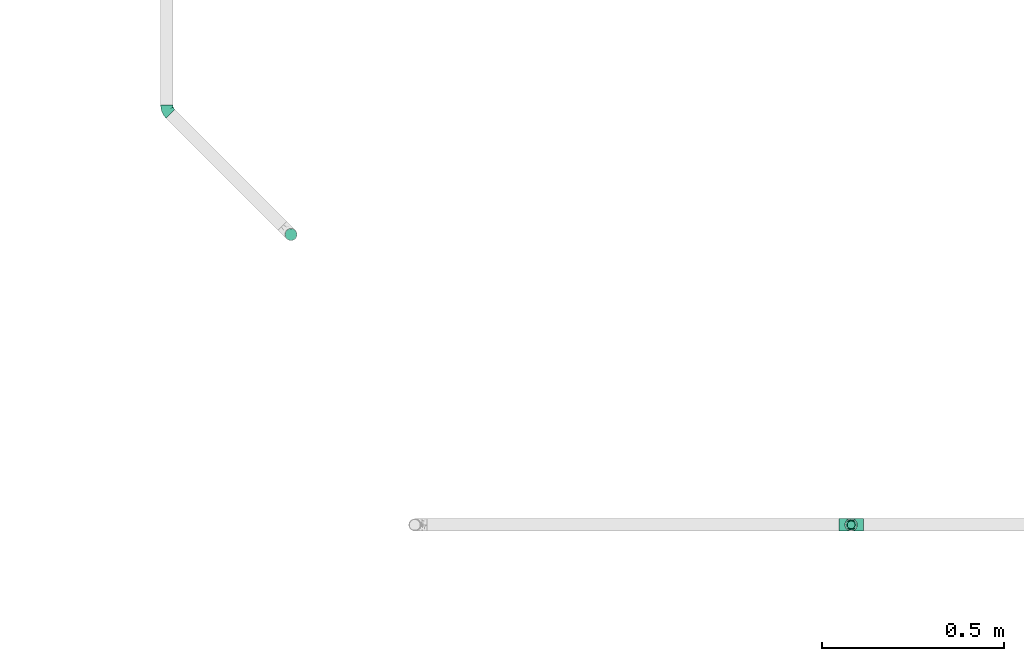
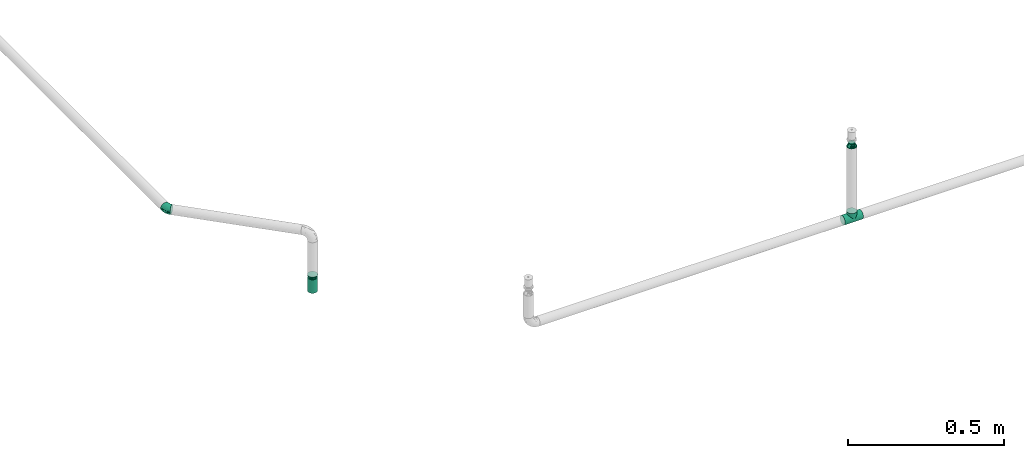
# One storey, part 29 of 157: 4 flow fittings, 1 flow terminal.
"""IFC2X3 building model written with IfcOpenShell, lengths in millimetres."""

from ifc_helpers import new_model, entity, si_unit, converted_unit, derived_unit, direction, frame, origin_with_axes, place, context, subcontext, project, spatial, open_shell, surface_model, source, transform, mapped, type_object, element, save


model = new_model("IFC2X3")

# Units and contexts
model_context = context("Model", 3, precision=0.01, world=frame((0.0, 4.29681676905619e-09, 0.0)), true_north=direction((4.01073788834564e-13, 1.0)))
plan_context = context("Plan", 3, precision=0.01, world=frame((0.0, 4.29681676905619e-09, 0.0)), true_north=direction((4.01073788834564e-13, 1.0)))
body_context = subcontext(model_context, "Body", "Model", "MODEL_VIEW")
ifc_project = project(units=[converted_unit("PLANEANGLEUNIT", "DEGREE", entity("IfcPositiveLengthMeasure", 0.0174532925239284), si_unit("PLANEANGLEUNIT", "RADIAN"), dimensions=[0, 0, 0, 0, 0, 0, 0]), si_unit("AREAUNIT", "SQUARE_METRE"), si_unit("LENGTHUNIT", "METRE", prefix="MILLI"), si_unit("MASSUNIT", "GRAM", prefix="KILO"), si_unit("POWERUNIT", "WATT"), si_unit("PRESSUREUNIT", "PASCAL"), si_unit("FORCEUNIT", "NEWTON", prefix="KILO"), si_unit("ELECTRICCURRENTUNIT", "AMPERE"), si_unit("THERMODYNAMICTEMPERATUREUNIT", "DEGREE_CELSIUS"), si_unit("TIMEUNIT", "SECOND"), si_unit("VOLUMEUNIT", "CUBIC_METRE"), derived_unit("LINEARVELOCITYUNIT", [(si_unit("LENGTHUNIT", "METRE"), 1), (si_unit("TIMEUNIT", "SECOND"), -1)]), derived_unit("VOLUMETRICFLOWRATEUNIT", [(si_unit("VOLUMEUNIT", "CUBIC_METRE"), 1), (si_unit("TIMEUNIT", "SECOND"), -1)]), derived_unit("THERMALTRANSMITTANCEUNIT", [(si_unit("POWERUNIT", "WATT"), 1), (si_unit("THERMODYNAMICTEMPERATUREUNIT", "KELVIN"), -1), (si_unit("AREAUNIT", "SQUARE_METRE"), -1)])], contexts=[model_context, plan_context])

# Site, building, storey
site_placement = place(None, frame((0.0, -4.29681676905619e-09, 0.0), z_axis=(0.0, 0.0, 1.0), x_axis=(1.0, 0.0, 0.0)))
site = spatial("IfcSite", under=ifc_project, at=site_placement, CompositionType="ELEMENT")
building_placement = place(site_placement, frame((0.0, 4.29681676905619e-09, 0.0), z_axis=(0.0, 0.0, 1.0), x_axis=(1.0, 0.0, 0.0)))
building = spatial("IfcBuilding", under=site, at=building_placement, Name="mc-building", CompositionType="ELEMENT")
storey_placement = place(building_placement, frame((0.0, 0.0, 204000.0), z_axis=(0.0, 0.0, 1.0), x_axis=(1.0, 0.0, 0.0)))
storey = spatial("IfcBuildingStorey", under=building, at=storey_placement, Name="Nivå D", CompositionType="ELEMENT", Elevation=204000.0)

# Flow fittings
pipe_fitting_type_1 = type_object("IfcPipeFittingType", Name="magi_pipe_fe_tee_centric_90_NOR", PredefinedType="JUNCTION")
shared_shape_1 = source(origin_with_axes(), body_context, "Body", "SurfaceModel", [
    surface_model("IfcShellBasedSurfaceModel", [(-33.8, 4.37404, -16.32415), (-33.8, 0.0, -16.9), (-33.8, 16.32415, -4.37404), (-33.8, 8.45, -14.63583), (-33.8, 11.9501, -11.9501), (-33.8, 14.63583, -8.45), (-33.8, -16.9, 0.0), (-33.8, -11.9501, -11.9501), (-33.8, -14.63583, -8.45), (-33.8, -8.45, -14.63583), (-33.8, -4.37404, -16.32415), (-33.8, -16.32415, -4.37404), (-33.8, 14.63583, 8.45), (-33.8, 16.32415, 4.37404), (-33.8, -8.45, 14.63583), (-33.8, 8.45, 14.63583), (-33.8, 11.9501, 11.9501), (-33.8, 4.37404, 16.32415), (-33.8, 0.0, 16.9), (-33.8, -11.9501, 11.9501), (-33.8, -14.63583, 8.45), (-33.8, -16.32415, 4.37404), (-33.8, -4.37404, 16.32415), (-33.8, 16.9, 0.0), (33.8, 4.37404, -16.32415), (33.8, -16.9, 0.0), (33.8, 0.0, -16.9), (33.8, 14.63583, -8.45), (33.8, 8.45, -14.63583), (33.8, 16.32415, -4.37404), (33.8, 11.9501, -11.9501), (33.8, -16.32415, 4.37404), (33.8, -8.45, -14.63583), (33.8, -4.37404, -16.32415), (33.8, -11.9501, -11.9501), (33.8, -14.63583, -8.45), (33.8, -16.32415, -4.37404), (33.8, 16.32415, 4.37404), (33.8, 8.45, 14.63583), (33.8, 14.63583, 8.45), (33.8, 11.9501, 11.9501), (33.8, -8.45, 14.63583), (33.8, 4.37404, 16.32415), (33.8, -14.63583, 8.45), (33.8, -11.9501, 11.9501), (33.8, 0.0, 16.9), (33.8, -4.37404, 16.32415), (33.8, 16.9, 0.0), (16.28698, -16.28698, 4.51047), (16.9, -16.9, 0.0), (14.62704, -14.62704, 8.4652), (9.47213, -9.47213, 13.99602), (12.26343, -12.26343, 11.62834), (-16.9, -16.9, 0.0), (-16.28698, -16.28698, 4.51047), (-14.62704, -14.62704, 8.4652), (-12.26343, -12.26343, 11.62834), (-9.47213, -9.47213, 13.99602), (-6.42894, -6.42894, 15.62942), (6.42894, -6.42894, 15.62942), (3.24522, -3.24522, 16.58549), (0.0, 0.0, 16.9), (-3.24522, -3.24522, 16.58549), (3.24522, -3.24522, -16.58549), (0.0, 0.0, -16.9), (-3.24522, -3.24522, -16.58549), (-6.42894, -6.42894, -15.62942), (6.42894, -6.42894, -15.62942), (9.47213, -9.47213, -13.99602), (12.26343, -12.26343, -11.62834), (14.62704, -14.62704, -8.4652), (16.28698, -16.28698, -4.51047), (-9.47213, -9.47213, -13.99602), (-12.26343, -12.26343, -11.62834), (-16.28698, -16.28698, -4.51047), (-14.62704, -14.62704, -8.4652), (4.37404, -25.35, -16.32415), (-16.9, -25.35, 0.0), (0.0, -25.35, -16.9), (14.63583, -25.35, -8.45), (8.45, -25.35, -14.63583), (16.32415, -25.35, -4.37404), (11.9501, -25.35, -11.9501), (-11.9501, -25.35, -11.9501), (-8.45, -25.35, -14.63583), (-4.37404, -25.35, -16.32415), (-14.63583, -25.35, -8.45), (-16.32415, -25.35, -4.37404), (16.9, -25.35, 0.0), (8.45, -25.35, 14.63583), (16.32415, -25.35, 4.37404), (14.63583, -25.35, 8.45), (-8.45, -25.35, 14.63583), (11.9501, -25.35, 11.9501), (4.37404, -25.35, 16.32415), (-16.32415, -25.35, 4.37404), (-11.9501, -25.35, 11.9501), (-14.63583, -25.35, 8.45), (0.0, -25.35, 16.9), (-4.37404, -25.35, 16.32415)], [open_shell([[[0, 1, 2]], [[3, 0, 4]], [[0, 2, 5]], [[4, 0, 5]], [[6, 2, 1]], [[7, 8, 9]], [[1, 10, 9]], [[11, 6, 8]], [[1, 9, 8]], [[1, 8, 6]], [[6, 12, 2]], [[12, 13, 2]], [[14, 12, 6]], [[12, 14, 15]], [[16, 12, 15]], [[17, 15, 18]], [[19, 14, 20]], [[21, 20, 14]], [[22, 18, 14]], [[14, 6, 21]], [[14, 18, 15]], [[23, 2, 13]], [[24, 25, 26]], [[27, 24, 28]], [[27, 29, 24]], [[27, 28, 30]], [[31, 25, 24]], [[26, 32, 33]], [[26, 34, 32]], [[35, 25, 36]], [[35, 34, 26]], [[25, 35, 26]], [[24, 29, 31]], [[29, 37, 38]], [[38, 37, 39]], [[38, 31, 29]], [[38, 39, 40]], [[41, 38, 42]], [[43, 41, 44]], [[41, 43, 31]], [[41, 45, 46]], [[41, 31, 38]], [[42, 45, 41]], [[29, 47, 37]], [[31, 43, 48]], [[25, 31, 49]], [[49, 31, 48]], [[43, 50, 48]], [[44, 41, 51]], [[50, 43, 52]], [[51, 52, 44]], [[52, 43, 44]], [[53, 54, 21]], [[53, 21, 6]], [[21, 54, 20]], [[54, 55, 20]], [[56, 57, 19]], [[19, 20, 56]], [[19, 57, 14]], [[56, 20, 55]], [[14, 57, 58]], [[51, 41, 59]], [[60, 45, 61]], [[59, 46, 60]], [[46, 59, 41]], [[60, 46, 45]], [[61, 45, 42]], [[39, 37, 13]], [[16, 38, 40]], [[12, 40, 39]], [[42, 38, 15]], [[23, 37, 47]], [[62, 61, 18]], [[62, 22, 58]], [[22, 62, 18]], [[58, 22, 14]], [[61, 17, 18]], [[42, 17, 61]], [[15, 17, 42]], [[15, 38, 16]], [[12, 16, 40]], [[13, 12, 39]], [[37, 23, 13]], [[5, 27, 30]], [[23, 47, 29]], [[30, 28, 3]], [[27, 2, 29]], [[26, 33, 63]], [[26, 64, 24]], [[64, 26, 63]], [[28, 24, 0]], [[64, 0, 24]], [[4, 30, 3]], [[2, 27, 5]], [[5, 30, 4]], [[2, 23, 29]], [[65, 66, 10]], [[1, 0, 64]], [[1, 65, 10]], [[66, 9, 10]], [[0, 3, 28]], [[1, 64, 65]], [[63, 33, 67]], [[32, 34, 68]], [[69, 68, 34]], [[35, 70, 69]], [[69, 34, 35]], [[32, 68, 67]], [[36, 25, 49]], [[36, 71, 35]], [[71, 36, 49]], [[35, 71, 70]], [[72, 9, 66]], [[72, 7, 9]], [[7, 72, 73]], [[7, 73, 8]], [[74, 53, 11]], [[75, 74, 8]], [[74, 11, 8]], [[11, 53, 6]], [[75, 8, 73]], [[32, 67, 33]], [[76, 77, 78]], [[79, 76, 80]], [[79, 81, 76]], [[79, 80, 82]], [[77, 76, 81]], [[78, 83, 84]], [[84, 85, 78]], [[86, 77, 87]], [[83, 78, 86]], [[77, 86, 78]], [[81, 88, 77]], [[89, 88, 90]], [[89, 90, 91]], [[92, 77, 89]], [[89, 91, 93]], [[92, 89, 94]], [[95, 96, 97]], [[96, 95, 92]], [[92, 98, 99]], [[95, 77, 92]], [[94, 98, 92]], [[89, 77, 88]], [[77, 95, 53]], [[54, 53, 95]], [[97, 96, 56]], [[96, 92, 57]], [[95, 97, 54]], [[58, 92, 99]], [[55, 54, 97]], [[56, 55, 97]], [[58, 57, 92]], [[98, 61, 62]], [[58, 99, 62]], [[56, 96, 57]], [[62, 99, 98]], [[94, 60, 98]], [[89, 59, 94]], [[91, 90, 48]], [[52, 93, 91]], [[93, 51, 89]], [[49, 90, 88]], [[59, 60, 94]], [[51, 59, 89]], [[49, 48, 90]], [[50, 52, 91]], [[48, 50, 91]], [[51, 93, 52]], [[98, 60, 61]], [[88, 81, 49]], [[71, 49, 81]], [[79, 82, 69]], [[82, 80, 68]], [[81, 79, 71]], [[67, 80, 76]], [[70, 71, 79]], [[69, 70, 79]], [[67, 68, 80]], [[78, 64, 63]], [[67, 76, 63]], [[69, 82, 68]], [[63, 76, 78]], [[85, 65, 78]], [[84, 66, 85]], [[86, 87, 74]], [[86, 73, 83]], [[72, 84, 83]], [[53, 87, 77]], [[66, 65, 85]], [[72, 66, 84]], [[53, 74, 87]], [[75, 73, 86]], [[74, 75, 86]], [[72, 83, 73]], [[78, 65, 64]]])]),
])
flow_fitting_1_placement = place(storey_placement, frame((529640.35, 404401.65, 2880.0), z_axis=(0.0, -1.0, 0.0), x_axis=(-1.0, 0.0, 0.0)))
element("IfcFlowFitting", 1, at=flow_fitting_1_placement, inside=storey, type_object=pipe_fitting_type_1, Name="magi_pipe_fe_tee_centric_90_NOR", context=body_context, shape_type="MappedRepresentation", body=[
    mapped(shared_shape_1, transform((0.0, 0.0, 0.0), scale=1.0)),
])
pipe_fitting_type_2 = type_object("IfcPipeFittingType", Name="magi_pipe_fe_reducer_centric_short_NOR", PredefinedType="TRANSITION")
shared_shape_2 = source(origin_with_axes(), body_context, "Body", "SurfaceModel", [
    surface_model("IfcShellBasedSurfaceModel", [(-2.0, -7.56604, -7.56604), (-2.0, -10.33541, -2.76936), (-2.0, -5.35, -9.26647), (-2.0, 5.35, -9.26647), (-2.0, 10.33541, -2.76936), (-2.0, 7.56604, -7.56604), (12.4, 11.9501, 11.9501), (12.4, 0.0, 16.9), (12.4, 11.9501, -11.9501), (12.4, 16.9, 0.0), (0.0, -10.7, 0.0), (0.0, -5.35, 9.26647), (0.0, -5.35, -9.26647), (0.0, 10.7, 0.0), (12.4, 15.66253, -2.98753), (12.4, 8.96258, -13.18758), (0.0, 6.6875, -6.94985), (12.4, -15.66253, -2.98753), (12.4, -16.9, 0.0), (12.4, 5.97505, -14.42505), (0.0, 5.35, -9.26647), (12.4, 14.42505, -5.97505), (0.0, 8.025, -4.63324), (0.0, 9.3625, -2.31662), (0.0, -9.3625, -2.31662), (0.0, -8.025, -4.63324), (12.4, -14.42505, -5.97505), (12.4, 13.18758, -8.96258), (12.4, -13.18758, -8.96258), (12.4, -11.9501, -11.9501), (0.0, -6.6875, -6.94985), (12.4, -8.96258, -13.18758), (12.4, -5.97505, -14.42505), (12.4, -15.66253, 2.98753), (12.4, -8.96258, 13.18758), (0.0, -6.6875, 6.94985), (12.4, -11.9501, 11.9501), (12.4, 15.66253, 2.98753), (12.4, -5.97505, 14.42505), (12.4, -14.42505, 5.97505), (0.0, -8.025, 4.63324), (0.0, -9.3625, 2.31662), (0.0, 9.3625, 2.31662), (0.0, 8.025, 4.63324), (12.4, 14.42505, 5.97505), (12.4, -13.18758, 8.96258), (12.4, 13.18758, 8.96258), (0.0, 6.6875, 6.94985), (12.4, 8.96258, 13.18758), (0.0, 5.35, 9.26647), (12.4, 5.97505, 14.42505), (14.4, 4.37404, -16.32415), (14.4, 8.45, -14.63583), (14.4, 11.9501, -11.9501), (14.4, -8.45, -14.63583), (14.4, 16.32415, -4.37404), (14.4, 16.32415, 4.37404), (14.4, 14.63583, -8.45), (14.4, 0.0, -16.9), (14.4, -4.37404, -16.32415), (14.4, -11.9501, -11.9501), (14.4, -16.32415, -4.37404), (14.4, -14.63583, -8.45), (14.4, -16.32415, 4.37404), (14.4, 16.9, 0.0), (14.4, 14.63583, 8.45), (14.4, 11.9501, 11.9501), (14.4, 4.37404, 16.32415), (14.4, 8.45, 14.63583), (14.4, 0.0, 16.9), (14.4, -14.63583, 8.45), (14.4, -16.9, 0.0), (14.4, -8.45, 14.63583), (14.4, -11.9501, 11.9501), (14.4, -4.37404, 16.32415), (12.4, 4.37404, 16.32415), (12.4, -14.63583, 8.45), (12.4, 16.32415, 4.37404), (12.4, 8.45, 14.63583), (12.4, 14.63583, 8.45), (12.4, -8.45, 14.63583), (12.4, -4.37404, 16.32415), (12.4, -16.32415, 4.37404), (12.4, -16.32415, -4.37404), (12.4, -8.45, -14.63583), (12.4, 16.32415, -4.37404), (12.4, 14.63583, -8.45), (12.4, 8.45, -14.63583), (12.4, 4.37404, -16.32415), (12.4, 0.0, -16.9), (12.4, -14.63583, -8.45), (12.4, -4.37404, -16.32415), (-2.0, 2.76936, 10.33541), (-2.0, 0.0, 10.7), (-2.0, 5.35, 9.26647), (-2.0, 7.56604, 7.56604), (-2.0, 9.26647, 5.35), (-2.0, 10.33541, 2.76936), (-2.0, -10.33541, 2.76936), (-2.0, -2.76936, 10.33541), (-2.0, -7.56604, 7.56604), (-2.0, -5.35, 9.26647), (-2.0, -9.26647, 5.35), (-2.0, -10.7, 0.0), (-2.0, 9.26647, -5.35), (-2.0, 2.76936, -10.33541), (-2.0, -9.26647, -5.35), (-2.0, 0.0, -10.7), (-2.0, -2.76936, -10.33541), (-2.0, 10.7, 0.0), (0.0, 0.0, -10.7), (0.0, 2.76936, -10.33541), (0.0, 10.33541, -2.76936), (0.0, 7.56604, -7.56604), (0.0, -10.33541, -2.76936), (0.0, 9.26647, -5.35), (0.0, 0.0, 10.7), (0.0, -2.76936, -10.33541), (0.0, -7.56604, -7.56604), (0.0, -9.26647, -5.35), (0.0, 10.33541, 2.76936), (0.0, 9.26647, 5.35), (0.0, 7.56604, 7.56604), (0.0, 2.76936, 10.33541), (0.0, -7.56604, 7.56604), (0.0, -10.33541, 2.76936), (0.0, -9.26647, 5.35), (0.0, -2.76936, 10.33541), (0.0, 2.675, -9.26647), (0.0, -2.675, -9.26647), (12.4, 2.98753, -15.66253), (0.0, 0.0, -9.26647), (12.4, -2.98753, -15.66253), (0.0, -2.675, 9.26647), (0.0, 2.675, 9.26647), (12.4, -2.98753, 15.66253), (0.0, 0.0, 9.26647), (12.4, 2.98753, 15.66253)], [open_shell([[[0, 1, 2]], [[3, 4, 5]], [[6, 7, 8]], [[8, 9, 6]], [[10, 11, 12]], [[13, 9, 14]], [[15, 16, 8]], [[17, 18, 10]], [[15, 19, 20]], [[21, 22, 23]], [[24, 25, 26]], [[22, 21, 27]], [[28, 26, 25]], [[29, 30, 31]], [[12, 32, 31]], [[10, 18, 33]], [[34, 35, 36]], [[37, 9, 13]], [[34, 38, 11]], [[39, 40, 41]], [[42, 43, 44]], [[40, 39, 45]], [[46, 44, 43]], [[6, 47, 48]], [[49, 50, 48]], [[51, 52, 53]], [[54, 51, 53]], [[53, 55, 56]], [[55, 53, 57]], [[53, 56, 54]], [[58, 54, 59]], [[58, 51, 54]], [[60, 61, 62]], [[61, 60, 54]], [[54, 63, 61]], [[56, 55, 64]], [[56, 65, 66]], [[56, 66, 67]], [[67, 63, 54]], [[67, 66, 68]], [[63, 67, 69]], [[69, 70, 63]], [[71, 61, 63]], [[70, 72, 73]], [[70, 69, 72]], [[72, 69, 74]], [[54, 56, 67]], [[75, 76, 7]], [[77, 75, 78]], [[6, 79, 77]], [[6, 77, 78]], [[76, 75, 77]], [[80, 76, 36]], [[80, 81, 7]], [[7, 76, 80]], [[82, 76, 77]], [[82, 83, 18]], [[82, 77, 84]], [[77, 85, 8]], [[8, 85, 86]], [[8, 87, 88]], [[84, 77, 8]], [[88, 89, 8]], [[83, 29, 90]], [[29, 83, 84]], [[84, 89, 91]], [[83, 82, 84]], [[8, 89, 84]], [[85, 77, 9]], [[83, 61, 18]], [[90, 62, 83]], [[54, 29, 84]], [[90, 29, 60]], [[59, 84, 91]], [[83, 62, 61]], [[61, 71, 18]], [[59, 54, 84]], [[60, 29, 54]], [[60, 62, 90]], [[58, 59, 91]], [[91, 89, 58]], [[88, 51, 89]], [[87, 52, 88]], [[57, 8, 86]], [[87, 8, 53]], [[55, 86, 85]], [[87, 53, 52]], [[52, 51, 88]], [[64, 55, 85]], [[57, 86, 55]], [[57, 53, 8]], [[9, 64, 85]], [[89, 51, 58]], [[77, 56, 9]], [[79, 65, 77]], [[68, 6, 78]], [[79, 6, 66]], [[67, 78, 75]], [[77, 65, 56]], [[56, 64, 9]], [[67, 68, 78]], [[66, 6, 68]], [[66, 65, 79]], [[69, 67, 75]], [[75, 7, 69]], [[81, 74, 7]], [[80, 72, 81]], [[70, 36, 76]], [[80, 36, 73]], [[63, 76, 82]], [[80, 73, 72]], [[72, 74, 81]], [[71, 63, 82]], [[70, 76, 63]], [[70, 73, 36]], [[18, 71, 82]], [[7, 74, 69]], [[92, 1, 93]], [[94, 1, 92]], [[95, 96, 97]], [[95, 97, 94]], [[98, 93, 1]], [[99, 100, 101]], [[99, 93, 100]], [[100, 98, 102]], [[93, 98, 100]], [[98, 1, 103]], [[94, 97, 1]], [[1, 97, 4]], [[5, 4, 104]], [[4, 3, 1]], [[105, 1, 3]], [[1, 0, 106]], [[2, 107, 108]], [[2, 1, 105]], [[105, 107, 2]], [[4, 97, 109]], [[20, 110, 111]], [[112, 20, 113]], [[114, 20, 112]], [[112, 113, 115]], [[116, 114, 112]], [[110, 12, 117]], [[110, 20, 12]], [[118, 114, 119]], [[114, 118, 12]], [[20, 114, 12]], [[112, 13, 120]], [[120, 121, 122]], [[120, 122, 123]], [[116, 112, 123]], [[123, 122, 49]], [[116, 124, 114]], [[125, 124, 126]], [[10, 114, 125]], [[124, 127, 11]], [[125, 114, 124]], [[127, 124, 116]], [[123, 112, 120]], [[1, 114, 103]], [[106, 119, 1]], [[12, 0, 2]], [[106, 0, 118]], [[117, 2, 108]], [[1, 119, 114]], [[114, 10, 103]], [[117, 12, 2]], [[118, 0, 12]], [[118, 119, 106]], [[110, 117, 108]], [[108, 107, 110]], [[105, 111, 107]], [[3, 20, 105]], [[115, 5, 104]], [[3, 5, 113]], [[112, 104, 4]], [[3, 113, 20]], [[20, 111, 105]], [[13, 112, 4]], [[115, 104, 112]], [[115, 113, 5]], [[109, 13, 4]], [[107, 111, 110]], [[97, 120, 109]], [[96, 121, 97]], [[49, 95, 94]], [[96, 95, 122]], [[123, 94, 92]], [[97, 121, 120]], [[120, 13, 109]], [[123, 49, 94]], [[122, 95, 49]], [[122, 121, 96]], [[116, 123, 92]], [[92, 93, 116]], [[99, 127, 93]], [[101, 11, 99]], [[126, 100, 102]], [[101, 100, 124]], [[125, 102, 98]], [[101, 124, 11]], [[11, 127, 99]], [[10, 125, 98]], [[126, 102, 125]], [[126, 124, 100]], [[103, 10, 98]], [[93, 127, 116]], [[18, 7, 36]], [[18, 29, 8]], [[89, 8, 29]], [[18, 8, 7]], [[13, 11, 49]], [[13, 20, 12]], [[13, 12, 11]], [[24, 26, 17]], [[10, 24, 17]], [[16, 15, 20]], [[30, 12, 31]], [[23, 14, 21]], [[19, 128, 20]], [[27, 8, 16]], [[32, 12, 129]], [[30, 28, 25]], [[130, 131, 128]], [[129, 132, 32]], [[16, 22, 27]], [[13, 14, 23]], [[128, 19, 130]], [[130, 89, 131]], [[131, 132, 129]], [[89, 132, 131]], [[28, 30, 29]], [[42, 44, 37]], [[13, 42, 37]], [[35, 34, 11]], [[47, 49, 48]], [[41, 33, 39]], [[38, 133, 11]], [[45, 36, 35]], [[50, 49, 134]], [[47, 46, 43]], [[135, 136, 133]], [[134, 137, 50]], [[35, 40, 45]], [[10, 33, 41]], [[133, 38, 135]], [[135, 7, 136]], [[136, 137, 134]], [[7, 137, 136]], [[46, 47, 6]]])]),
])
for number, where, z_axis, x_axis, name in (
    (2, (529640.35, 404401.65, 3172.54800000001), (0.0, -1.0, 0.0), (0.0, 0.0, -1.0), "magi_pipe_fe_reducer_centric_short_NOR"),
    (3, (528100.0, 405200.0, 2696.95199999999), (0.0, -1.0, 0.0), (0.0, 0.0, 1.0), "magi_pipe_fe_reducer_centric_short_NOR"),
):
    element("IfcFlowFitting", number, at=place(storey_placement, frame(where, z_axis=z_axis, x_axis=x_axis)), inside=storey, type_object=pipe_fitting_type_2, Name=name, context=body_context, shape_type="MappedRepresentation", body=[
        mapped(shared_shape_2, transform((0.0, 0.0, 0.0), scale=1.0)),
    ])
pipe_fitting_type_3 = type_object("IfcPipeFittingType", Name="magi_pipe_fe_elbow_short_001", PredefinedType="BEND")
shared_shape_3 = source(origin_with_axes(), body_context, "Body", "SurfaceModel", [
    surface_model("IfcShellBasedSurfaceModel", [(-14.00042, 4.37404, -16.32415), (-14.00042, 0.0, -16.9), (-14.00042, 11.9501, -11.9501), (-14.00042, 8.45, -14.63583), (-14.00042, 16.32415, -4.37404), (-14.00042, 14.63583, -8.45), (-14.00042, -14.63583, -8.45), (-14.00042, -16.32415, -4.37404), (-14.00042, -8.45, 14.63583), (-14.00042, -11.9501, -11.9501), (-14.00042, -8.45, -14.63583), (-14.00042, -4.37404, -16.32415), (-14.00042, -16.9, 0.0), (-14.00042, -16.32415, 4.37404), (-14.00042, 11.9501, 11.9501), (-14.00042, 16.32415, 4.37404), (-14.00042, 14.63583, 8.45), (-14.00042, 4.37404, 16.32415), (-14.00042, 8.45, 14.63583), (-14.00042, -14.63583, 8.45), (-14.00042, -11.9501, 11.9501), (-14.00042, -4.37404, 16.32415), (-14.00042, 0.0, 16.9), (-14.00042, 16.9, 0.0), (1.44979, 18.34979, -11.9501), (9.89979, 9.89979, -16.9), (6.80688, 12.99271, -16.32415), (3.92474, 15.87484, -14.63583), (-0.4493, 20.24888, -8.45), (-1.64312, 21.4427, -4.37404), (20.24888, -0.4493, -8.45), (15.87484, 3.92474, -14.63583), (18.34979, 1.44979, -11.9501), (12.99271, 6.80688, -16.32415), (15.87484, 3.92474, 14.63583), (21.4427, -1.64312, -4.37404), (21.4427, -1.64312, 4.37404), (21.84989, -2.05031, 0.0), (-2.05031, 21.84989, 0.0), (1.44979, 18.34979, 11.9501), (-1.64312, 21.4427, 4.37404), (-0.4493, 20.24888, 8.45), (3.92474, 15.87484, 14.63583), (6.80688, 12.99271, 16.32415), (20.24888, -0.4493, 8.45), (18.34979, 1.44979, 11.9501), (9.89979, 9.89979, 16.9), (12.99271, 6.80688, 16.32415), (-6.69642, -6.19709, 15.44573), (-3.73886, -9.55149, 13.0407), (1.73525, -4.18927, 15.2328), (-5.45721, -12.9253, 9.8956), (12.9984, -5.28073, 9.8956), (-5.04389, -1.62717, 16.6761), (-6.49351, 7.03255, 15.79912), (-1.60742, 3.88065, 16.84061), (-8.46768, 2.34185, 16.79744), (0.50163, 10.15992, 15.77375), (3.05513, 7.9997, 16.65419), (4.30433, -10.39156, 9.41786), (9.11709, 0.35308, 15.44573), (-6.96204, 16.80785, 6.94325), (-7.45285, 14.17314, 10.66504), (-4.80048, 11.58938, 13.79725), (1.45487, -14.20736, 2.98752), (7.72591, -11.71416, 2.98752), (4.99742, -12.06485, 5.88094), (-4.29939, -14.97035, 0.0), (-4.76236, -15.7636, 3.07885), (16.28713, -6.46486, 3.25046), (12.48134, -8.19596, 5.86894), (-6.7692, 18.10883, 3.55089), (-3.03023, -14.62106, 5.86894), (4.71716, 2.41599, 16.6761), (9.3977, -4.11015, 13.0407), (5.40163, -13.04069, 0.0), (13.62576, -7.5455, 0.0), (-7.53307, 18.18644, 0.0), (2.83663, -6.84823, 13.47681), (-5.04389, -1.62717, -16.6761), (9.01737, -11.07487, -2.98752), (2.82012, -13.74621, -2.98752), (4.99742, -12.06485, -5.88094), (4.71716, 2.41599, -16.6761), (-7.53886, 6.82944, -15.77375), (-7.81695, 3.49634, -16.65419), (-4.75196, 15.29189, -10.66504), (9.3977, -4.11015, -13.0407), (-6.96204, 16.80785, -6.94325), (12.48135, -8.19596, -5.86894), (-8.01833, 17.59142, -3.55089), (-0.38116, 9.56437, -15.79912), (-6.9454, -16.08809, -3.25046), (-3.03023, -14.62106, -5.86894), (4.30433, -10.39156, -9.41786), (12.9984, -5.28073, -9.8956), (-5.45721, -12.9253, -9.8956), (-3.73886, -9.55149, -13.0407), (2.83663, -6.84823, -13.47681), (-6.69642, -6.19709, -15.44573), (1.73525, -4.18927, -15.2328), (9.11709, 0.35308, -15.44573), (-1.60742, 3.88065, -16.84061), (-4.80048, 11.58938, -13.79725), (14.51405, -7.77905, -3.07885), (4.33161, 7.64349, -16.79744)], [open_shell([[[0, 1, 2]], [[3, 0, 2]], [[4, 5, 2]], [[6, 2, 1]], [[2, 7, 8]], [[9, 6, 10]], [[1, 11, 10]], [[1, 10, 6]], [[6, 7, 2]], [[12, 13, 7]], [[4, 2, 14]], [[14, 15, 4]], [[16, 15, 14]], [[17, 18, 14]], [[2, 8, 14]], [[17, 14, 8]], [[19, 20, 13]], [[13, 20, 7]], [[21, 22, 8]], [[20, 8, 7]], [[8, 22, 17]], [[23, 4, 15]], [[24, 25, 26]], [[24, 26, 27]], [[24, 28, 29]], [[25, 24, 30]], [[30, 24, 29]], [[31, 30, 32]], [[31, 33, 25]], [[30, 31, 25]], [[30, 34, 35]], [[35, 36, 37]], [[38, 30, 29]], [[39, 38, 40]], [[39, 40, 41]], [[39, 42, 43]], [[38, 39, 34]], [[34, 39, 43]], [[44, 34, 45]], [[36, 35, 44]], [[34, 46, 47]], [[44, 35, 34]], [[46, 34, 43]], [[30, 38, 34]], [[48, 49, 50]], [[20, 51, 49]], [[8, 20, 49]], [[44, 45, 52]], [[22, 21, 53]], [[21, 8, 48]], [[18, 17, 54]], [[55, 56, 53]], [[22, 56, 17]], [[43, 57, 58]], [[49, 51, 59]], [[34, 47, 60]], [[61, 16, 62]], [[63, 14, 18]], [[64, 65, 66]], [[67, 64, 68]], [[69, 36, 70]], [[61, 71, 15]], [[19, 13, 72]], [[23, 15, 71]], [[15, 16, 61]], [[20, 19, 51]], [[54, 63, 18]], [[72, 66, 59]], [[12, 67, 68]], [[42, 39, 63]], [[46, 58, 73]], [[45, 34, 74]], [[41, 40, 61]], [[73, 47, 46]], [[64, 67, 75]], [[45, 74, 52]], [[55, 58, 57]], [[74, 34, 60]], [[19, 72, 51]], [[76, 69, 65]], [[36, 69, 37]], [[56, 54, 17]], [[71, 61, 40]], [[77, 71, 38]], [[52, 59, 70]], [[49, 78, 50]], [[50, 73, 53]], [[43, 42, 57]], [[50, 60, 73]], [[61, 62, 41]], [[55, 53, 73]], [[39, 41, 62]], [[63, 54, 57]], [[48, 53, 21]], [[16, 14, 62]], [[36, 44, 70]], [[59, 51, 72]], [[78, 59, 74]], [[59, 52, 74]], [[70, 44, 52]], [[14, 63, 62]], [[39, 62, 63]], [[63, 57, 42]], [[55, 57, 54]], [[49, 48, 8]], [[53, 48, 50]], [[73, 60, 47]], [[74, 60, 50]], [[73, 58, 55]], [[46, 43, 58]], [[53, 56, 22]], [[54, 56, 55]], [[64, 66, 72]], [[70, 59, 66]], [[64, 72, 68]], [[65, 64, 75]], [[76, 65, 75]], [[70, 66, 65]], [[72, 13, 68]], [[12, 68, 13]], [[59, 78, 49]], [[74, 50, 78]], [[38, 71, 40]], [[71, 77, 23]], [[65, 69, 70]], [[37, 69, 76]], [[11, 1, 79]], [[80, 81, 82]], [[25, 33, 83]], [[84, 85, 0]], [[5, 86, 2]], [[31, 32, 87]], [[88, 86, 5]], [[30, 35, 89]], [[4, 90, 88]], [[27, 26, 91]], [[92, 7, 93]], [[3, 84, 0]], [[67, 92, 81]], [[94, 95, 89]], [[7, 92, 12]], [[96, 9, 97]], [[9, 10, 97]], [[98, 94, 97]], [[7, 6, 93]], [[9, 96, 6]], [[99, 10, 11]], [[96, 94, 93]], [[100, 79, 83]], [[101, 83, 33]], [[23, 77, 90]], [[80, 76, 75]], [[38, 29, 90]], [[102, 83, 79]], [[24, 27, 103]], [[88, 5, 4]], [[28, 86, 88]], [[99, 97, 10]], [[91, 103, 27]], [[85, 79, 1]], [[103, 91, 84]], [[2, 103, 3]], [[76, 80, 104]], [[25, 105, 26]], [[101, 33, 31]], [[89, 82, 94]], [[32, 30, 95]], [[87, 100, 101]], [[87, 95, 94]], [[100, 99, 79]], [[37, 76, 104]], [[28, 24, 86]], [[105, 91, 26]], [[95, 87, 32]], [[87, 98, 100]], [[105, 83, 102]], [[102, 85, 84]], [[29, 88, 90]], [[30, 89, 95]], [[29, 28, 88]], [[94, 96, 97]], [[93, 6, 96]], [[24, 103, 86]], [[2, 86, 103]], [[103, 84, 3]], [[102, 84, 91]], [[79, 99, 11]], [[97, 99, 100]], [[87, 101, 31]], [[83, 101, 100]], [[79, 85, 102]], [[1, 0, 85]], [[83, 105, 25]], [[91, 105, 102]], [[80, 82, 89]], [[93, 94, 82]], [[80, 89, 104]], [[81, 80, 75]], [[67, 81, 75]], [[93, 82, 81]], [[89, 35, 104]], [[37, 104, 35]], [[94, 98, 87]], [[97, 100, 98]], [[23, 90, 4]], [[90, 77, 38]], [[81, 92, 93]], [[12, 92, 67]]])]),
])
flow_fitting_2_placement = place(storey_placement, frame((527758.2357, 405541.7643, 2879.99695), z_axis=(0.0, 0.0, 1.0), x_axis=(0.0, -1.0, 0.0)))
element("IfcFlowFitting", 4, at=flow_fitting_2_placement, inside=storey, type_object=pipe_fitting_type_3, Name="magi_pipe_fe_elbow_short_001", context=body_context, shape_type="MappedRepresentation", body=[
    mapped(shared_shape_3, transform((0.0, 0.0, 0.0), scale=1.0)),
])

# Flow terminal
fire_suppression_terminal_type = type_object("IfcFireSuppressionTerminalType", Name="SP-15-K80-68DGR-STD-HIMLING", PredefinedType="NOTDEFINED")
shared_shape_4 = source(origin_with_axes(), body_context, "Body", "SurfaceModel", [
    surface_model("IfcShellBasedSurfaceModel", [(4.1411, -15.45481, 53.0), (8.0, -13.85641, 53.0), (11.31371, -11.31371, 53.0), (-8.0, -13.85641, 53.0), (15.45481, -4.1411, 53.0), (16.0, 0.0, 53.0), (13.85641, -8.0, 53.0), (0.0, -16.0, 53.0), (-4.1411, -15.45481, 53.0), (-13.85641, -8.0, 53.0), (-11.31371, -11.31371, 53.0), (-15.45481, -4.1411, 53.0), (15.45481, 4.1411, 53.0), (13.85641, 8.0, 53.0), (11.31371, 11.31371, 53.0), (-4.1411, 15.45481, 53.0), (8.0, 13.85641, 53.0), (4.1411, 15.45481, 53.0), (0.0, 16.0, 53.0), (-13.85641, 8.0, 53.0), (-15.45481, 4.1411, 53.0), (-16.0, 0.0, 53.0), (-11.31371, 11.31371, 53.0), (-8.0, 13.85641, 53.0), (0.0, 16.0, 0.0), (4.1411, 15.45481, 0.0), (8.0, 13.85641, 0.0), (-4.1411, 15.45481, 0.0), (11.31371, 11.31371, 0.0), (13.85641, 8.0, 0.0), (15.45481, 4.1411, 0.0), (-15.45481, -4.1411, 0.0), (-11.31371, 11.31371, 0.0), (-8.0, 13.85641, 0.0), (-13.85641, 8.0, 0.0), (-15.45481, 4.1411, 0.0), (-16.0, 0.0, 0.0), (4.1411, -15.45481, 0.0), (16.0, 0.0, 0.0), (15.45481, -4.1411, 0.0), (13.85641, -8.0, 0.0), (11.31371, -11.31371, 0.0), (8.0, -13.85641, 0.0), (-8.0, -13.85641, 0.0), (-13.85641, -8.0, 0.0), (-11.31371, -11.31371, 0.0), (0.0, -16.0, 0.0), (-4.1411, -15.45481, 0.0)], [open_shell([[[0, 1, 2]], [[3, 0, 2]], [[4, 5, 2]], [[4, 2, 6]], [[3, 2, 5]], [[7, 3, 8]], [[7, 0, 3]], [[3, 9, 10]], [[9, 3, 11]], [[5, 11, 3]], [[5, 12, 11]], [[12, 13, 14]], [[15, 12, 14]], [[16, 17, 18]], [[14, 16, 15]], [[18, 15, 16]], [[11, 19, 20]], [[21, 11, 20]], [[22, 15, 23]], [[15, 22, 19]], [[19, 11, 15]], [[11, 12, 15]], [[24, 25, 26]], [[27, 24, 26]], [[28, 29, 30]], [[27, 26, 28]], [[27, 28, 31]], [[27, 32, 33]], [[32, 27, 34]], [[34, 31, 35]], [[31, 34, 27]], [[35, 31, 36]], [[28, 30, 31]], [[37, 38, 39]], [[37, 39, 40]], [[41, 42, 37]], [[41, 37, 40]], [[38, 37, 43]], [[44, 43, 45]], [[43, 44, 31]], [[43, 46, 47]], [[43, 31, 38]], [[37, 46, 43]], [[38, 31, 30]], [[11, 31, 44]], [[45, 9, 44]], [[3, 43, 47]], [[45, 43, 10]], [[8, 47, 46]], [[31, 21, 36]], [[31, 11, 21]], [[44, 9, 11]], [[45, 10, 9]], [[3, 10, 43]], [[47, 8, 3]], [[46, 7, 8]], [[0, 37, 42]], [[41, 1, 42]], [[6, 40, 39]], [[41, 40, 2]], [[4, 39, 38]], [[37, 0, 7]], [[42, 1, 0]], [[41, 2, 1]], [[40, 6, 2]], [[4, 6, 39]], [[38, 5, 4]], [[37, 7, 46]], [[12, 38, 30]], [[13, 30, 29]], [[16, 26, 25]], [[17, 25, 24]], [[30, 13, 12]], [[12, 5, 38]], [[28, 14, 13]], [[28, 26, 14]], [[14, 26, 16]], [[25, 17, 16]], [[28, 13, 29]], [[24, 18, 17]], [[15, 27, 33]], [[32, 23, 33]], [[19, 34, 35]], [[32, 34, 22]], [[20, 35, 36]], [[27, 15, 18]], [[33, 23, 15]], [[32, 22, 23]], [[34, 19, 22]], [[20, 19, 35]], [[36, 21, 20]], [[27, 18, 24]]])]),
])
flow_terminal_placement = place(storey_placement, frame((528100.0, 405200.0, 2700.0), z_axis=(0.0, 0.0, -1.0), x_axis=(1.0, 0.0, 0.0)))
element("IfcFlowTerminal", 5, at=flow_terminal_placement, inside=storey, type_object=fire_suppression_terminal_type, Name="SP-15-K80-68DGR-STD-HIMLING", context=body_context, shape_type="MappedRepresentation", body=[
    mapped(shared_shape_4, transform((0.0, 0.0, 0.0), scale=1.0)),
])

save(model, "model.ifc")
